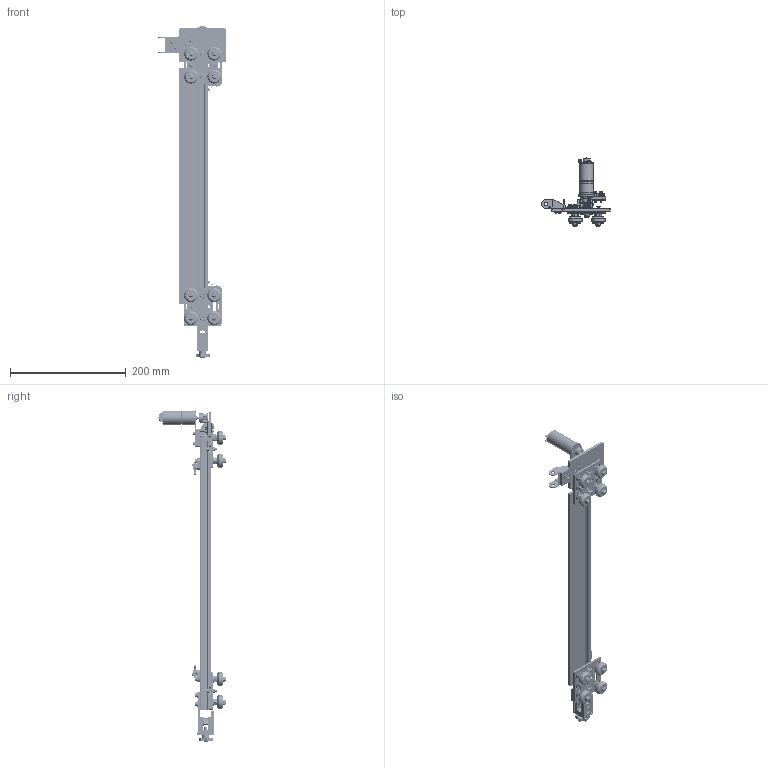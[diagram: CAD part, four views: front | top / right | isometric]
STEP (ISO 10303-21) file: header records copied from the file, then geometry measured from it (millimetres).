
FILE_DESCRIPTION(/* description */ (''),/* implementation_level */ '2;1');
FILE_NAME(/* name */ 'Z-Axis.stp',/* time_stamp */ '2026-11-15T11:07:29+02:00',/* author */ ('Ahmed'),/* organization */ (''),/* preprocessor_version */ 'ST-DEVELOPER v20.2',/* originating_system */ 'Autodesk Inventor 2027',/* authorisation */ '');
FILE_SCHEMA (('AUTOMOTIVE_DESIGN { 1 0 10303 214 3 1 1 }'));
Length unit declared in the file: millimetre
Products named in the file (32): Z-Axis; 2020aluminum_extrusion_black; Drag Chain Support; motor holder bracket; Motor; GT2 Pulley Assembly With Grub Screws; ISO 7045 - M2 x 10 - 4.8 - Z; DC Motor Bracket Spacer; Gantry_Plate_65x65; V-Pulley; Slider T-Nut for 2020 - M5; ISO 4762 - M5 x 10; ANSI B18.22M - 5 N; 2020 Belt Tensioner G_K; M4 T slot nut - 2020 Creality; ISO 4762 - M4 x 12; ANSI B18.22M - 4 N; 90 Degree Drag Chain Link; ISO 4762 - M3 x 12; ISO 4762 - M3 x 16; ISO 4032 - M3; LimitSwitchMountPlate; NO/NC Bump Switch; Slider T-Nut for 2020 - M3; LimitSwitchMountPlate_MIR; NO-NC Bump Switch_MIR; Slider T-Nut for 2020 - M3_MIR; ISO 4762 - M3 x 10; ANSI B18.22M - 3 N; ISO 4762 - M2 x 16; ISO 4032 - M2; ANSI B18.22M - 2 N
Assembly tree (98 placements, depth 2):
  Z-Axis
    2020aluminum_extrusion_black
    Gantry_Plate_65x65  x2
    Drag Chain Support
    motor holder bracket
    Slider T-Nut for 2020 - M3  x4
    ISO 4762 - M3 x 12  x7
    ANSI B18.22M - 3 N  x15
    Motor
    GT2 Pulley Assembly With Grub Screws
    ISO 7045 - M2 x 10 - 4.8 - Z  x2
    ANSI B18.22M - 2 N  x6
    DC Motor Bracket Spacer  x2
    V-Pulley  x8
    Slider T-Nut for 2020 - M5  x4
    ISO 4762 - M5 x 10  x4
    ANSI B18.22M - 5 N  x4
    ISO 4762 - M3 x 16  x2
    ISO 4032 - M3  x7
    2020 Belt Tensioner G_K
    M4 T slot nut - 2020 Creality  x2
    ISO 4762 - M4 x 12  x2
    ANSI B18.22M - 4 N  x2
    90 Degree Drag Chain Link
    LimitSwitchMountPlate
    NO/NC Bump Switch
    ISO 4762 - M3 x 10  x4
    ISO 4762 - M2 x 16  x4
    ISO 4032 - M2  x4
    LimitSwitchMountPlate_MIR
    NO-NC Bump Switch_MIR
    Slider T-Nut for 2020 - M3_MIR  x2
Bounding box: 118.74 x 117.1 x 573.15 mm (x, y, z)
Volume: 301520.6 mm3; surface area: 238132.6 mm2
Topology: 173 solids, 175 shells, 3033 faces, 7375 edges, 4856 vertices
Faces by surface type: plane 1609, cylinder 1033, cone 178, torus 130, bspline 45, sphere 38
Full cylindrical faces by diameter (mm): 0.25 x6, 1 x6, 1.5 x2, 1.567 x4, 1.783 x2, 1.8 x6, 2 x6, 2.3 x2, 2.459 x7, 2.5 x14, 2.529 x6, 2.6 x2, 3 x21, 3.2 x6, 3.3 x1, 3.5 x27, 3.684 x2, 3.8 x4, 4 x15, 4.2 x15, 4.234 x12, 4.25 x2, 4.4 x2, 4.6 x1, 4.62 x2, 4.7 x2, 4.758 x8, 4.958 x12, 5 x65, 5.1 x24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
Entity records: 61824 total; most frequent: CARTESIAN_POINT 19495, DIRECTION 8657, ORIENTED_EDGE 8252, EDGE_CURVE 4126, AXIS2_PLACEMENT_3D 3188, VERTEX_POINT 2728, LINE 2281, VECTOR 2281
